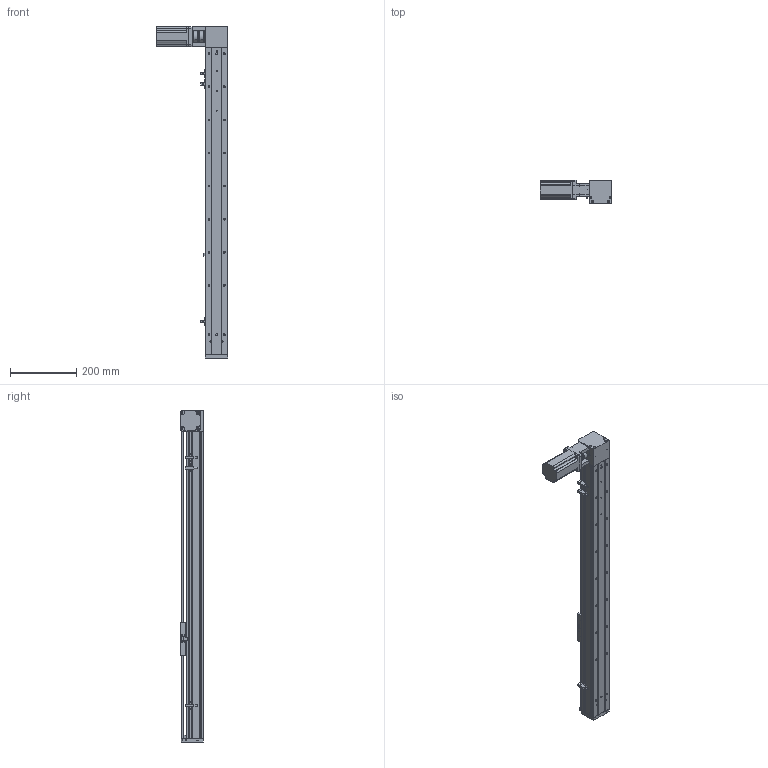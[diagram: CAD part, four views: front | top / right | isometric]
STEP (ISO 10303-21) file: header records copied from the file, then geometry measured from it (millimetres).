
FILE_DESCRIPTION (( 'STEP AP203' ), '1' );
FILE_NAME ('ML68-S750-BL.STEP', '2016-06-01T03:17:04', ( '微软用户' ), ( '微软中国' ), 'SwSTEP 2.0', 'SolidWorks 2014', '' );
FILE_SCHEMA (( 'CONFIG_CONTROL_DESIGN' ));
Length unit declared in the file: millimetre
Products named in the file (12): 联轴器（CS34X32-8X14）_預設; MS68-TS0204鎮湛嘐隅釱_蕼偞; ML68-奻裔^ML68-S750-BL; ML68-BL傷啣; ML68雄赽釱; 60換覜結え; ML68滅鳥啣盓傅輸; ML68-菁釱^ML68-S750-BL; ML68-S750-BL; ML68傷啣; 換覜ん; 三协电机MH201N2_預設
Assembly tree (13 placements, depth 2):
  ML68-S750-BL
    ML68-BL傷啣
    60換覜結え
    ML68-菁釱^ML68-S750-BL
    ML68傷啣
    換覜ん  x3
    三协电机MH201N2_預設
    联轴器（CS34X32-8X14）_預設
    MS68-TS0204鎮湛嘐隅釱_蕼偞
    ML68-奻裔^ML68-S750-BL
    ML68雄赽釱
    ML68滅鳥啣盓傅輸
Bounding box: 216.5 x 70.5 x 1004 mm (x, y, z)
Volume: 1821641 mm3; surface area: 665049.2 mm2
Topology: 14 solids, 14 shells, 935 faces, 2537 edges, 1607 vertices
Faces by surface type: cylinder 439, plane 378, cone 100, bspline 18
Entity records: 30169 total; most frequent: CARTESIAN_POINT 6375, DIRECTION 4829, ORIENTED_EDGE 4590, EDGE_CURVE 2295, AXIS2_PLACEMENT_3D 1775, VERTEX_POINT 1495, VECTOR 1279, LINE 1279
